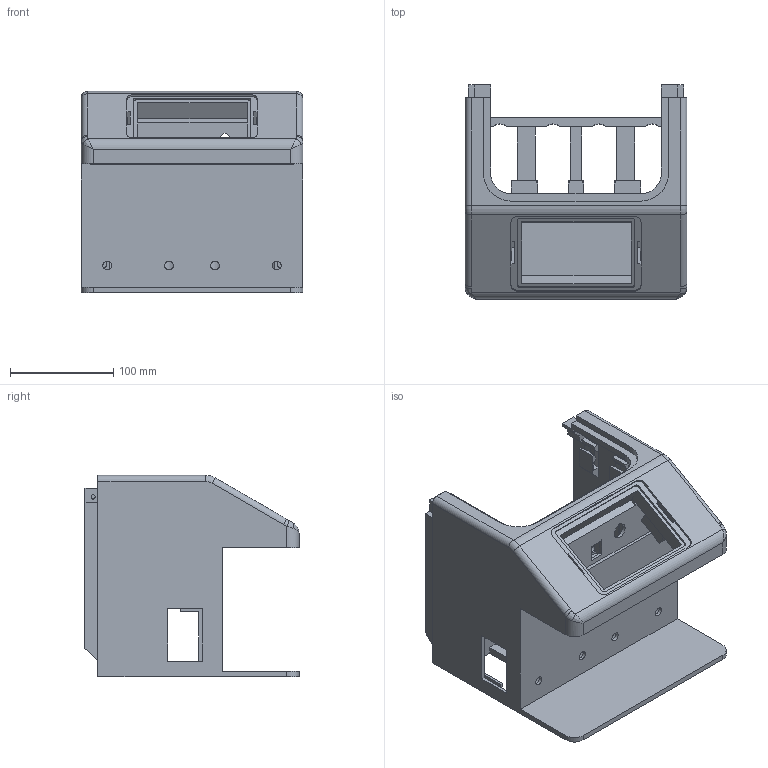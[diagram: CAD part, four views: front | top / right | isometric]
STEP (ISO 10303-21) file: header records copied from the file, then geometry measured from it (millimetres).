
FILE_DESCRIPTION(('Open CASCADE Model'),'2;1');
FILE_NAME('Open CASCADE Shape Model','1970-01-01T00:00:00',('Author'),( 'Open CASCADE'),'Open CASCADE STEP processor 7.8','Open CASCADE 7.8' ,'Unknown');
FILE_SCHEMA(('AUTOMOTIVE_DESIGN { 1 0 10303 214 1 1 1 1 }'));
Length unit declared in the file: millimetre
Products named in the file (2): Open CASCADE STEP translator 7.8 2; enclosure-front-top
Assembly tree (1 placements, depth 2):
  Open CASCADE STEP translator 7.8 2
    enclosure-front-top
Bounding box: 215 x 207.55 x 195 mm (x, y, z)
Volume: 1413645.9 mm3; surface area: 342914.8 mm2
Topology: 1 solids, 1 shells, 628 faces, 1715 edges, 1126 vertices
Faces by surface type: plane 501, cylinder 101, bspline 24, torus 2
Full cylindrical faces by diameter (mm): 6.57 x2, 8.5 x4, 10.57 x2
Entity records: 42070 total; most frequent: CARTESIAN_POINT 9080, DIRECTION 5628, LINE 3872, VECTOR 3872, ORIENTED_EDGE 3426, PCURVE 3426, DEFINITIONAL_REPRESENTATION 3426, EDGE_CURVE 1713
